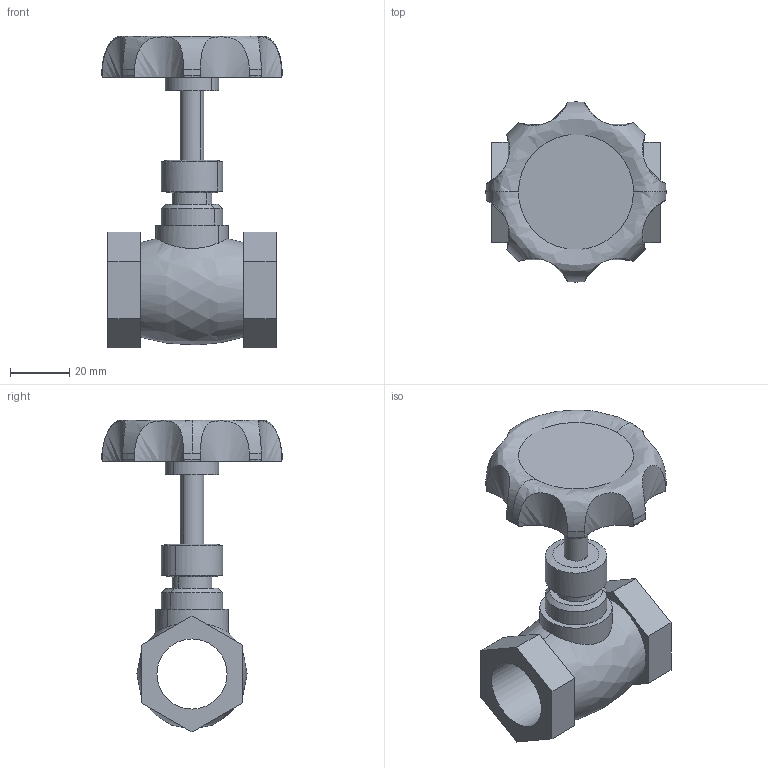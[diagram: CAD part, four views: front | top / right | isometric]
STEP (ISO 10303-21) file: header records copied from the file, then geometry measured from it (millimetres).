
FILE_DESCRIPTION((''),'2;1');
FILE_NAME('','2018-10-23T13:20:52',(''),(''),'','CADfix','');
FILE_SCHEMA(('AUTOMOTIVE_DESIGN { 1 0 10303 214 1 1 1 1 }'));
Length unit declared in the file: millimetre
Bounding box: 61 x 61 x 105.63 mm (x, y, z)
Volume: 73968.3 mm3; surface area: 22419.8 mm2
Topology: 1 solids, 1 shells, 71 faces, 245 edges, 184 vertices
Faces by surface type: bspline 71
Entity records: 4668 total; most frequent: CARTESIAN_POINT 3251, ORIENTED_EDGE 490, EDGE_CURVE 245, VERTEX_POINT 184, B_SPLINE_CURVE_WITH_KNOTS 156, EDGE_LOOP 81, FACE_OUTER_BOUND 71, ADVANCED_FACE 71
